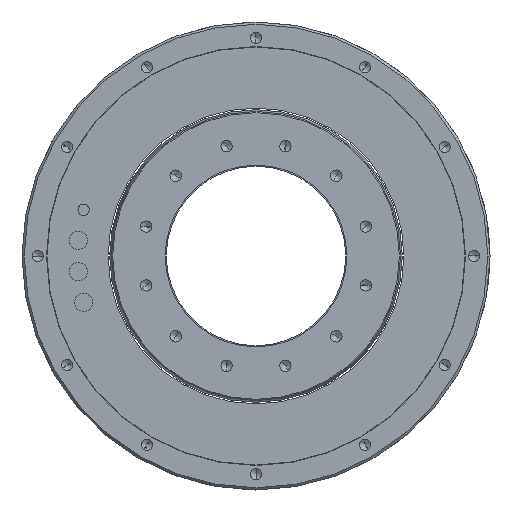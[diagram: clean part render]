
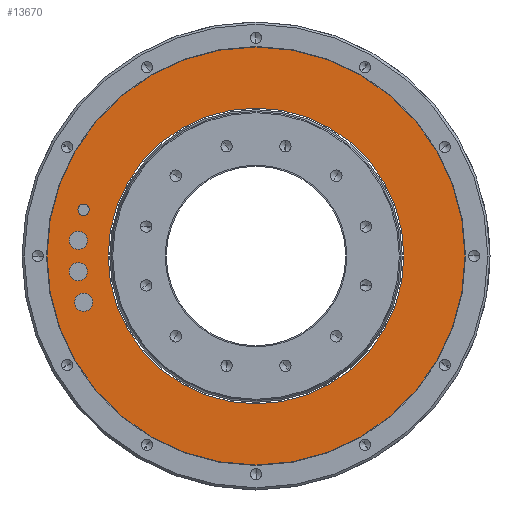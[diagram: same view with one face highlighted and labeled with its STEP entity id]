
A CAD part, left-side view. The second image highlights one B-rep face of the part: STEP entity #13670.
In plain terms, the highlighted planar face has unit normal (-1, 0, 0).
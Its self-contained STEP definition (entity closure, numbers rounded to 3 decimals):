
#13249=CARTESIAN_POINT('',(-160.,0.,0.));
#13250=DIRECTION('',(-1.,0.,0.));
#13251=DIRECTION('',(0.,1.,0.));
#13252=AXIS2_PLACEMENT_3D('',#13249,#13250,#13251);
#13254=CARTESIAN_POINT('',(-160.,0.,0.));
#13255=DIRECTION('',(1.,0.,0.));
#13256=DIRECTION('',(0.,1.,0.));
#13257=AXIS2_PLACEMENT_3D('',#13254,#13255,#13256);
#13259=CARTESIAN_POINT('',(-160.,0.,0.));
#13260=DIRECTION('',(-1.,0.,0.));
#13261=DIRECTION('',(0.,1.,0.));
#13262=AXIS2_PLACEMENT_3D('',#13259,#13260,#13261);
#13264=CARTESIAN_POINT('',(-160.,0.,0.));
#13265=DIRECTION('',(1.,0.,0.));
#13266=DIRECTION('',(0.,1.,0.));
#13267=AXIS2_PLACEMENT_3D('',#13264,#13265,#13266);
#13269=CARTESIAN_POINT('',(-160.,75.873,-20.33));
#13270=DIRECTION('',(-1.,0.,0.));
#13271=DIRECTION('',(0.,0.,1.));
#13272=AXIS2_PLACEMENT_3D('',#13269,#13270,#13271);
#13274=CARTESIAN_POINT('',(-160.,75.873,-20.33));
#13275=DIRECTION('',(-1.,0.,0.));
#13276=DIRECTION('',(0.,0.,-1.));
#13277=AXIS2_PLACEMENT_3D('',#13274,#13275,#13276);
#13279=CARTESIAN_POINT('',(-160.,75.873,20.33));
#13280=DIRECTION('',(-1.,0.,0.));
#13281=DIRECTION('',(0.,0.,1.));
#13282=AXIS2_PLACEMENT_3D('',#13279,#13280,#13281);
#13284=CARTESIAN_POINT('',(-160.,75.873,20.33));
#13285=DIRECTION('',(-1.,0.,0.));
#13286=DIRECTION('',(0.,0.,-1.));
#13287=AXIS2_PLACEMENT_3D('',#13284,#13285,#13286);
#13289=CARTESIAN_POINT('',(-160.,78.251,6.846));
#13290=DIRECTION('',(-1.,0.,0.));
#13291=DIRECTION('',(0.,0.,1.));
#13292=AXIS2_PLACEMENT_3D('',#13289,#13290,#13291);
#13294=CARTESIAN_POINT('',(-160.,78.251,6.846));
#13295=DIRECTION('',(-1.,0.,0.));
#13296=DIRECTION('',(0.,0.,-1.));
#13297=AXIS2_PLACEMENT_3D('',#13294,#13295,#13296);
#13299=CARTESIAN_POINT('',(-160.,78.251,-6.846));
#13300=DIRECTION('',(-1.,0.,0.));
#13301=DIRECTION('',(0.,0.,1.));
#13302=AXIS2_PLACEMENT_3D('',#13299,#13300,#13301);
#13304=CARTESIAN_POINT('',(-160.,78.251,-6.846));
#13305=DIRECTION('',(-1.,0.,0.));
#13306=DIRECTION('',(0.,0.,-1.));
#13307=AXIS2_PLACEMENT_3D('',#13304,#13305,#13306);
#13458=CARTESIAN_POINT('',(-160.,92.,0.));
#13460=VERTEX_POINT('',#13458);
#13461=CARTESIAN_POINT('',(-160.,65.1,0.));
#13463=VERTEX_POINT('',#13461);
#13478=CARTESIAN_POINT('',(-160.,-92.,0.));
#13480=VERTEX_POINT('',#13478);
#13481=CARTESIAN_POINT('',(-160.,-65.1,0.));
#13483=VERTEX_POINT('',#13481);
#13513=CARTESIAN_POINT('',(-160.,75.873,-16.33));
#13514=CARTESIAN_POINT('',(-160.,75.873,-24.33));
#13515=VERTEX_POINT('',#13513);
#13516=VERTEX_POINT('',#13514);
#13517=CARTESIAN_POINT('',(-160.,75.873,22.83));
#13518=CARTESIAN_POINT('',(-160.,75.873,17.83));
#13519=VERTEX_POINT('',#13517);
#13520=VERTEX_POINT('',#13518);
#13521=CARTESIAN_POINT('',(-160.,78.251,10.846));
#13522=CARTESIAN_POINT('',(-160.,78.251,2.846));
#13523=VERTEX_POINT('',#13521);
#13524=VERTEX_POINT('',#13522);
#13525=CARTESIAN_POINT('',(-160.,78.251,-2.846));
#13526=CARTESIAN_POINT('',(-160.,78.251,-10.846));
#13527=VERTEX_POINT('',#13525);
#13528=VERTEX_POINT('',#13526);
#13631=CARTESIAN_POINT('',(-160.,0.,0.));
#13632=DIRECTION('',(1.,0.,0.));
#13633=DIRECTION('',(0.,-1.,0.));
#13634=AXIS2_PLACEMENT_3D('',#13631,#13632,#13633);
#13635=PLANE('',#13634);
#13637=ORIENTED_EDGE('',*,*,#13636,.F.);
#13639=ORIENTED_EDGE('',*,*,#13638,.T.);
#13640=EDGE_LOOP('',(#13637,#13639));
#13641=FACE_OUTER_BOUND('',#13640,.F.);
#13642=ORIENTED_EDGE('',*,*,#13624,.F.);
#13643=ORIENTED_EDGE('',*,*,#13613,.T.);
#13644=EDGE_LOOP('',(#13642,#13643));
#13645=FACE_BOUND('',#13644,.F.);
#13647=ORIENTED_EDGE('',*,*,#13646,.T.);
#13649=ORIENTED_EDGE('',*,*,#13648,.T.);
#13650=EDGE_LOOP('',(#13647,#13649));
#13651=FACE_BOUND('',#13650,.F.);
#13653=ORIENTED_EDGE('',*,*,#13652,.T.);
#13655=ORIENTED_EDGE('',*,*,#13654,.T.);
#13656=EDGE_LOOP('',(#13653,#13655));
#13657=FACE_BOUND('',#13656,.F.);
#13659=ORIENTED_EDGE('',*,*,#13658,.T.);
#13661=ORIENTED_EDGE('',*,*,#13660,.T.);
#13662=EDGE_LOOP('',(#13659,#13661));
#13663=FACE_BOUND('',#13662,.F.);
#13665=ORIENTED_EDGE('',*,*,#13664,.T.);
#13667=ORIENTED_EDGE('',*,*,#13666,.T.);
#13668=EDGE_LOOP('',(#13665,#13667));
#13669=FACE_BOUND('',#13668,.F.);
#13670=ADVANCED_FACE('',(#13641,#13645,#13651,#13657,#13663,#13669),#13635,.F.);
#13253=CIRCLE('',#13252,65.1);
#13258=CIRCLE('',#13257,65.1);
#13263=CIRCLE('',#13262,92.);
#13268=CIRCLE('',#13267,92.);
#13273=CIRCLE('',#13272,4.);
#13278=CIRCLE('',#13277,4.);
#13283=CIRCLE('',#13282,2.5);
#13288=CIRCLE('',#13287,2.5);
#13293=CIRCLE('',#13292,4.);
#13298=CIRCLE('',#13297,4.);
#13303=CIRCLE('',#13302,4.);
#13308=CIRCLE('',#13307,4.);
#13613=EDGE_CURVE('',#13463,#13483,#13253,.T.);
#13624=EDGE_CURVE('',#13463,#13483,#13258,.T.);
#13636=EDGE_CURVE('',#13460,#13480,#13263,.T.);
#13638=EDGE_CURVE('',#13460,#13480,#13268,.T.);
#13646=EDGE_CURVE('',#13515,#13516,#13273,.T.);
#13648=EDGE_CURVE('',#13516,#13515,#13278,.T.);
#13652=EDGE_CURVE('',#13519,#13520,#13283,.T.);
#13654=EDGE_CURVE('',#13520,#13519,#13288,.T.);
#13658=EDGE_CURVE('',#13523,#13524,#13293,.T.);
#13660=EDGE_CURVE('',#13524,#13523,#13298,.T.);
#13664=EDGE_CURVE('',#13527,#13528,#13303,.T.);
#13666=EDGE_CURVE('',#13528,#13527,#13308,.T.);
